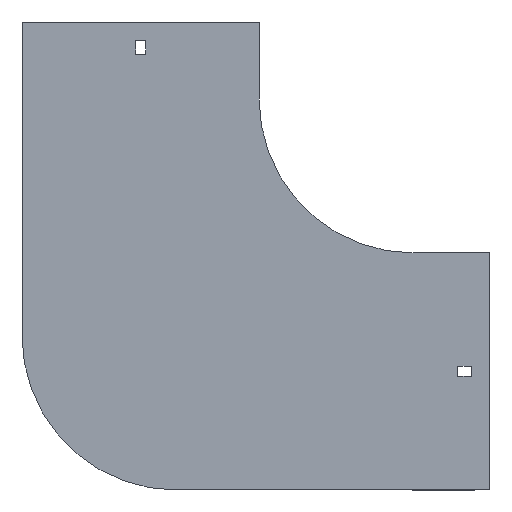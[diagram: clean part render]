
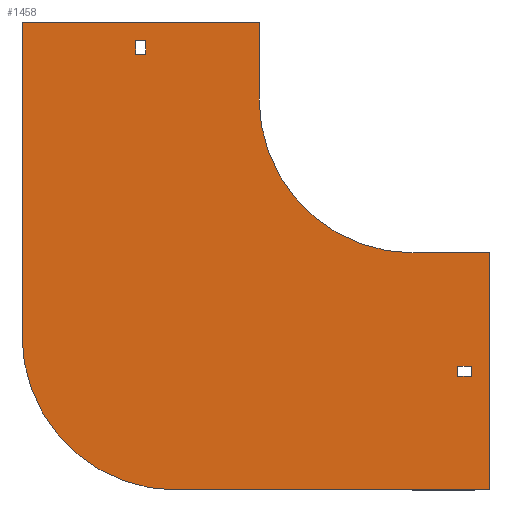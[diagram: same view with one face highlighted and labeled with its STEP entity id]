
A CAD part, front view. The second image highlights one B-rep face of the part: STEP entity #1458.
In plain terms, the highlighted planar face has unit normal (0, -1, 0).
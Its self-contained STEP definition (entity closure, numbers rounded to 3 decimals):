
#21 = LINE ( 'NONE', #488, #395 ) ;
#29 = VERTEX_POINT ( 'NONE', #747 ) ;
#32 = DIRECTION ( 'NONE',  ( -1., 0., 0. ) ) ;
#33 = VECTOR ( 'NONE', #1616, 1000. ) ;
#42 = PLANE ( 'NONE',  #466 ) ;
#47 = VERTEX_POINT ( 'NONE', #864 ) ;
#62 = DIRECTION ( 'NONE',  ( 0., 0., -1. ) ) ;
#69 = EDGE_CURVE ( 'NONE', #105, #1494, #1842, .T. ) ;
#70 = VECTOR ( 'NONE', #1743, 1000. ) ;
#74 = DIRECTION ( 'NONE',  ( 1., 0., 0. ) ) ;
#76 = ORIENTED_EDGE ( 'NONE', *, *, #504, .F. ) ;
#82 = CARTESIAN_POINT ( 'NONE',  ( 0., 0., -100. ) ) ;
#102 = VERTEX_POINT ( 'NONE', #1854 ) ;
#105 = VERTEX_POINT ( 'NONE', #1865 ) ;
#114 = CARTESIAN_POINT ( 'NONE',  ( 38., 0., -180.25 ) ) ;
#135 = CARTESIAN_POINT ( 'NONE',  ( -180.25, 0., 29. ) ) ;
#150 = EDGE_CURVE ( 'NONE', #1218, #1003, #21, .T. ) ;
#151 = AXIS2_PLACEMENT_3D ( 'NONE', #1537, #715, #408 ) ;
#163 = EDGE_LOOP ( 'NONE', ( #76, #974, #1259, #1881, #730, #1026, #517, #1332 ) ) ;
#174 = DIRECTION ( 'NONE',  ( 0., 0., -1. ) ) ;
#182 = CARTESIAN_POINT ( 'NONE',  ( 50., 0., -254. ) ) ;
#209 = CARTESIAN_POINT ( 'NONE',  ( 50., 0., -100. ) ) ;
#210 = DIRECTION ( 'NONE',  ( 0., 0., -1. ) ) ;
#214 = VECTOR ( 'NONE', #32, 1000. ) ;
#219 = EDGE_CURVE ( 'NONE', #701, #1098, #1574, .T. ) ;
#225 = DIRECTION ( 'NONE',  ( 0., 0., 1. ) ) ;
#228 = EDGE_CURVE ( 'NONE', #1578, #47, #1410, .T. ) ;
#239 = ORIENTED_EDGE ( 'NONE', *, *, #150, .T. ) ;
#242 = DIRECTION ( 'NONE',  ( 0., 1., 0. ) ) ;
#256 = LINE ( 'NONE', #552, #1204 ) ;
#268 = ORIENTED_EDGE ( 'NONE', *, *, #866, .F. ) ;
#269 = DIRECTION ( 'NONE',  ( -1., 0., 0. ) ) ;
#272 = LINE ( 'NONE', #114, #875 ) ;
#300 = EDGE_CURVE ( 'NONE', #1098, #105, #542, .T. ) ;
#304 = EDGE_CURVE ( 'NONE', #1464, #102, #1584, .T. ) ;
#319 = CARTESIAN_POINT ( 'NONE',  ( 0., 0., 0. ) ) ;
#323 = EDGE_CURVE ( 'NONE', #1160, #29, #1874, .T. ) ;
#332 = VECTOR ( 'NONE', #210, 1000. ) ;
#363 = EDGE_CURVE ( 'NONE', #693, #701, #989, .T. ) ;
#386 = EDGE_LOOP ( 'NONE', ( #1745, #1382, #239, #900 ) ) ;
#393 = VERTEX_POINT ( 'NONE', #658 ) ;
#395 = VECTOR ( 'NONE', #174, 1000. ) ;
#399 = DIRECTION ( 'NONE',  ( 1., 0., 0. ) ) ;
#401 = CARTESIAN_POINT ( 'NONE',  ( -254., 0., 50. ) ) ;
#408 = DIRECTION ( 'NONE',  ( 0., 0., -1. ) ) ;
#435 = EDGE_CURVE ( 'NONE', #634, #1464, #1301, .T. ) ;
#454 = CARTESIAN_POINT ( 'NONE',  ( -173.75, 0., 29. ) ) ;
#465 = EDGE_CURVE ( 'NONE', #1003, #1578, #256, .T. ) ;
#466 = AXIS2_PLACEMENT_3D ( 'NONE', #319, #948, #62 ) ;
#469 = DIRECTION ( 'NONE',  ( 1., 0., 0. ) ) ;
#482 = EDGE_CURVE ( 'NONE', #1432, #693, #1127, .T. ) ;
#488 = CARTESIAN_POINT ( 'NONE',  ( -173.75, 0., 29. ) ) ;
#504 = EDGE_CURVE ( 'NONE', #29, #1432, #1321, .T. ) ;
#507 = CARTESIAN_POINT ( 'NONE',  ( -100., 0., 0. ) ) ;
#511 = CARTESIAN_POINT ( 'NONE',  ( -254., 0., -154. ) ) ;
#517 = ORIENTED_EDGE ( 'NONE', *, *, #363, .F. ) ;
#542 = LINE ( 'NONE', #1563, #332 ) ;
#552 = CARTESIAN_POINT ( 'NONE',  ( -180.25, 0., 29. ) ) ;
#585 = VECTOR ( 'NONE', #74, 1000. ) ;
#634 = VERTEX_POINT ( 'NONE', #768 ) ;
#658 = CARTESIAN_POINT ( 'NONE',  ( 38., 0., -173.75 ) ) ;
#684 = DIRECTION ( 'NONE',  ( 0., 0., 1. ) ) ;
#688 = CARTESIAN_POINT ( 'NONE',  ( -173.75, 0., 38. ) ) ;
#693 = VERTEX_POINT ( 'NONE', #507 ) ;
#701 = VERTEX_POINT ( 'NONE', #82 ) ;
#715 = DIRECTION ( 'NONE',  ( 0., -1., 0. ) ) ;
#717 = AXIS2_PLACEMENT_3D ( 'NONE', #1886, #242, #1915 ) ;
#730 = ORIENTED_EDGE ( 'NONE', *, *, #300, .F. ) ;
#747 = CARTESIAN_POINT ( 'NONE',  ( -254., 0., 50. ) ) ;
#768 = CARTESIAN_POINT ( 'NONE',  ( 29., 0., -173.75 ) ) ;
#804 = CARTESIAN_POINT ( 'NONE',  ( 29., 0., -180.25 ) ) ;
#805 = ORIENTED_EDGE ( 'NONE', *, *, #965, .F. ) ;
#823 = ORIENTED_EDGE ( 'NONE', *, *, #304, .F. ) ;
#860 = CARTESIAN_POINT ( 'NONE',  ( -100., 0., 50. ) ) ;
#864 = CARTESIAN_POINT ( 'NONE',  ( -180.25, 0., 38. ) ) ;
#866 = EDGE_CURVE ( 'NONE', #102, #393, #272, .T. ) ;
#875 = VECTOR ( 'NONE', #684, 1000. ) ;
#900 = ORIENTED_EDGE ( 'NONE', *, *, #465, .T. ) ;
#948 = DIRECTION ( 'NONE',  ( 0., -1., 0. ) ) ;
#965 = EDGE_CURVE ( 'NONE', #393, #634, #1918, .T. ) ;
#971 = CARTESIAN_POINT ( 'NONE',  ( 29., 0., -180.25 ) ) ;
#974 = ORIENTED_EDGE ( 'NONE', *, *, #323, .F. ) ;
#989 = CIRCLE ( 'NONE', #151, 100. ) ;
#1002 = CARTESIAN_POINT ( 'NONE',  ( 29., 0., -173.75 ) ) ;
#1003 = VERTEX_POINT ( 'NONE', #454 ) ;
#1026 = ORIENTED_EDGE ( 'NONE', *, *, #219, .F. ) ;
#1094 = FACE_BOUND ( 'NONE', #1190, .T. ) ;
#1098 = VERTEX_POINT ( 'NONE', #209 ) ;
#1127 = LINE ( 'NONE', #860, #1724 ) ;
#1143 = EDGE_CURVE ( 'NONE', #47, #1218, #1679, .T. ) ;
#1148 = VECTOR ( 'NONE', #1596, 1000. ) ;
#1152 = VECTOR ( 'NONE', #469, 1000. ) ;
#1160 = VERTEX_POINT ( 'NONE', #1750 ) ;
#1188 = EDGE_CURVE ( 'NONE', #1494, #1160, #1562, .T. ) ;
#1190 = EDGE_LOOP ( 'NONE', ( #268, #823, #1641, #805 ) ) ;
#1204 = VECTOR ( 'NONE', #269, 1000. ) ;
#1218 = VERTEX_POINT ( 'NONE', #688 ) ;
#1242 = CARTESIAN_POINT ( 'NONE',  ( 29., 0., -180.25 ) ) ;
#1259 = ORIENTED_EDGE ( 'NONE', *, *, #1188, .F. ) ;
#1301 = LINE ( 'NONE', #971, #1148 ) ;
#1321 = LINE ( 'NONE', #401, #33 ) ;
#1325 = DIRECTION ( 'NONE',  ( 0., 0., 1. ) ) ;
#1332 = ORIENTED_EDGE ( 'NONE', *, *, #482, .F. ) ;
#1359 = VECTOR ( 'NONE', #1325, 1000. ) ;
#1382 = ORIENTED_EDGE ( 'NONE', *, *, #1143, .T. ) ;
#1383 = CARTESIAN_POINT ( 'NONE',  ( -180.25, 0., 38. ) ) ;
#1410 = LINE ( 'NONE', #135, #1359 ) ;
#1423 = CARTESIAN_POINT ( 'NONE',  ( 0., 0., -100. ) ) ;
#1432 = VERTEX_POINT ( 'NONE', #1501 ) ;
#1458 = ADVANCED_FACE ( 'NONE', ( #1681, #1707, #1094 ), #42, .T. ) ;
#1464 = VERTEX_POINT ( 'NONE', #1242 ) ;
#1494 = VERTEX_POINT ( 'NONE', #1700 ) ;
#1501 = CARTESIAN_POINT ( 'NONE',  ( -100., 0., 50. ) ) ;
#1537 = CARTESIAN_POINT ( 'NONE',  ( 0., 0., 0. ) ) ;
#1562 = CIRCLE ( 'NONE', #717, 100. ) ;
#1563 = CARTESIAN_POINT ( 'NONE',  ( 50., 0., -100. ) ) ;
#1574 = LINE ( 'NONE', #1423, #1814 ) ;
#1578 = VERTEX_POINT ( 'NONE', #1712 ) ;
#1584 = LINE ( 'NONE', #804, #585 ) ;
#1586 = DIRECTION ( 'NONE',  ( 0., 0., -1. ) ) ;
#1596 = DIRECTION ( 'NONE',  ( 0., 0., -1. ) ) ;
#1616 = DIRECTION ( 'NONE',  ( 1., 0., 0. ) ) ;
#1641 = ORIENTED_EDGE ( 'NONE', *, *, #435, .F. ) ;
#1679 = LINE ( 'NONE', #1383, #1152 ) ;
#1681 = FACE_BOUND ( 'NONE', #386, .T. ) ;
#1700 = CARTESIAN_POINT ( 'NONE',  ( -154., 0., -254. ) ) ;
#1707 = FACE_OUTER_BOUND ( 'NONE', #163, .T. ) ;
#1712 = CARTESIAN_POINT ( 'NONE',  ( -180.25, 0., 29. ) ) ;
#1724 = VECTOR ( 'NONE', #1586, 1000. ) ;
#1743 = DIRECTION ( 'NONE',  ( -1., 0., 0. ) ) ;
#1745 = ORIENTED_EDGE ( 'NONE', *, *, #228, .T. ) ;
#1750 = CARTESIAN_POINT ( 'NONE',  ( -254., 0., -154. ) ) ;
#1792 = VECTOR ( 'NONE', #225, 1000. ) ;
#1814 = VECTOR ( 'NONE', #399, 1000. ) ;
#1842 = LINE ( 'NONE', #182, #214 ) ;
#1854 = CARTESIAN_POINT ( 'NONE',  ( 38., 0., -180.25 ) ) ;
#1865 = CARTESIAN_POINT ( 'NONE',  ( 50., 0., -254. ) ) ;
#1874 = LINE ( 'NONE', #511, #1792 ) ;
#1881 = ORIENTED_EDGE ( 'NONE', *, *, #69, .F. ) ;
#1886 = CARTESIAN_POINT ( 'NONE',  ( -154., 0., -154. ) ) ;
#1915 = DIRECTION ( 'NONE',  ( 0., 0., 1. ) ) ;
#1918 = LINE ( 'NONE', #1002, #70 ) ;
